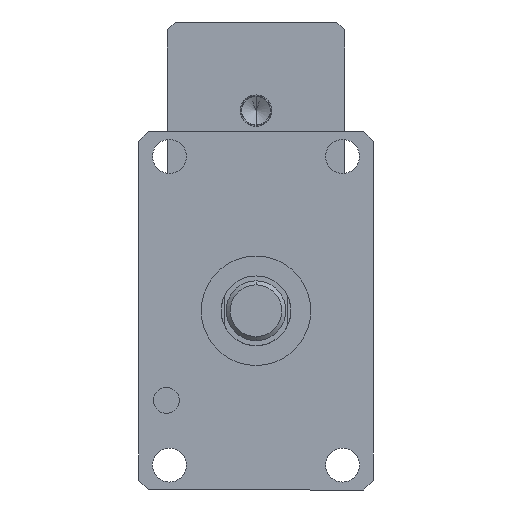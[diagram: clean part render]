
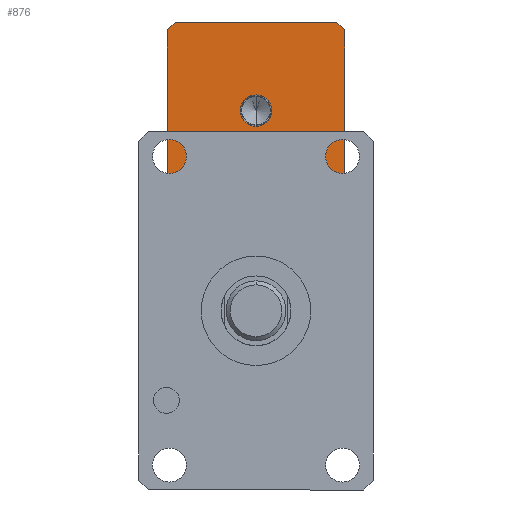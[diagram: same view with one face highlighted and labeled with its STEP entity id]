
A CAD part, front view. The second image highlights one B-rep face of the part: STEP entity #876.
In plain terms, the highlighted planar face has unit normal (0, -1, 0).
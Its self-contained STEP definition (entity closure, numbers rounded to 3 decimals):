
#598 = DIRECTION ( 'NONE',  ( 0., -1., 0. ) ) ;
#667 = VECTOR ( 'NONE', #12500, 1000. ) ;
#876 = ADVANCED_FACE ( 'NONE', ( #7718, #5119 ), #5338, .F. ) ;
#896 = ORIENTED_EDGE ( 'NONE', *, *, #4593, .T. ) ;
#938 = EDGE_CURVE ( 'NONE', #2421, #6954, #6801, .T. ) ;
#960 = AXIS2_PLACEMENT_3D ( 'NONE', #5809, #12560, #6776 ) ;
#979 = EDGE_CURVE ( 'NONE', #10774, #1044, #4198, .T. ) ;
#1044 = VERTEX_POINT ( 'NONE', #3375 ) ;
#1050 = ORIENTED_EDGE ( 'NONE', *, *, #10671, .T. ) ;
#1455 = CARTESIAN_POINT ( 'NONE',  ( 44.5, 110., 145. ) ) ;
#1544 = VERTEX_POINT ( 'NONE', #9676 ) ;
#1922 = LINE ( 'NONE', #10560, #2214 ) ;
#2160 = ORIENTED_EDGE ( 'NONE', *, *, #11901, .F. ) ;
#2189 = CARTESIAN_POINT ( 'NONE',  ( 40.5, 110., 145. ) ) ;
#2214 = VECTOR ( 'NONE', #4736, 1000. ) ;
#2228 = DIRECTION ( 'NONE',  ( -0.707, 0., 0.707 ) ) ;
#2236 = CIRCLE ( 'NONE', #2716, 7.903 ) ;
#2293 = EDGE_LOOP ( 'NONE', ( #3767, #2352, #1050, #5019, #5135, #6459, #9102, #896 ) ) ;
#2311 = DIRECTION ( 'NONE',  ( 0.707, 0., 0.707 ) ) ;
#2332 = LINE ( 'NONE', #9166, #12370 ) ;
#2352 = ORIENTED_EDGE ( 'NONE', *, *, #10734, .T. ) ;
#2421 = VERTEX_POINT ( 'NONE', #9122 ) ;
#2443 = DIRECTION ( 'NONE',  ( 0., 0., 1. ) ) ;
#2463 = CARTESIAN_POINT ( 'NONE',  ( -44.5, 110., 141. ) ) ;
#2468 = CARTESIAN_POINT ( 'NONE',  ( 44.5, 110., 145. ) ) ;
#2572 = EDGE_CURVE ( 'NONE', #2421, #1044, #1922, .T. ) ;
#2716 = AXIS2_PLACEMENT_3D ( 'NONE', #6441, #598, #7436 ) ;
#3024 = VERTEX_POINT ( 'NONE', #2463 ) ;
#3318 = DIRECTION ( 'NONE',  ( 0., 0., -1. ) ) ;
#3375 = CARTESIAN_POINT ( 'NONE',  ( 44.5, 110., 60. ) ) ;
#3386 = AXIS2_PLACEMENT_3D ( 'NONE', #1455, #8265, #2443 ) ;
#3435 = DIRECTION ( 'NONE',  ( -0.707, 0., -0.707 ) ) ;
#3546 = CARTESIAN_POINT ( 'NONE',  ( -44.5, 110., 60. ) ) ;
#3767 = ORIENTED_EDGE ( 'NONE', *, *, #11463, .T. ) ;
#3771 = CARTESIAN_POINT ( 'NONE',  ( 44.5, 110., 56. ) ) ;
#4106 = CARTESIAN_POINT ( 'NONE',  ( 40.5, 110., 56. ) ) ;
#4198 = LINE ( 'NONE', #8159, #8774 ) ;
#4252 = EDGE_CURVE ( 'NONE', #5139, #6954, #12366, .T. ) ;
#4593 = EDGE_CURVE ( 'NONE', #5139, #3024, #9348, .T. ) ;
#4736 = DIRECTION ( 'NONE',  ( 0., 0., -1. ) ) ;
#5019 = ORIENTED_EDGE ( 'NONE', *, *, #979, .T. ) ;
#5119 = FACE_OUTER_BOUND ( 'NONE', #2293, .T. ) ;
#5135 = ORIENTED_EDGE ( 'NONE', *, *, #2572, .F. ) ;
#5139 = VERTEX_POINT ( 'NONE', #6201 ) ;
#5254 = LINE ( 'NONE', #8840, #12383 ) ;
#5338 = PLANE ( 'NONE',  #3386 ) ;
#5809 = CARTESIAN_POINT ( 'NONE',  ( 0., 110., 100.5 ) ) ;
#5916 = EDGE_CURVE ( 'NONE', #1544, #9587, #2236, .T. ) ;
#6201 = CARTESIAN_POINT ( 'NONE',  ( -40.5, 110., 145. ) ) ;
#6441 = CARTESIAN_POINT ( 'NONE',  ( 0., 110., 100.5 ) ) ;
#6459 = ORIENTED_EDGE ( 'NONE', *, *, #938, .T. ) ;
#6776 = DIRECTION ( 'NONE',  ( 0., 0., -1. ) ) ;
#6801 = LINE ( 'NONE', #10030, #9074 ) ;
#6954 = VERTEX_POINT ( 'NONE', #2189 ) ;
#7436 = DIRECTION ( 'NONE',  ( 0., 0., -1. ) ) ;
#7456 = EDGE_LOOP ( 'NONE', ( #2160, #8543 ) ) ;
#7718 = FACE_BOUND ( 'NONE', #7456, .T. ) ;
#8159 = CARTESIAN_POINT ( 'NONE',  ( 44.5, 110., 60. ) ) ;
#8265 = DIRECTION ( 'NONE',  ( 0., 1., 0. ) ) ;
#8302 = DIRECTION ( 'NONE',  ( 1., 0., 0. ) ) ;
#8372 = VERTEX_POINT ( 'NONE', #3546 ) ;
#8543 = ORIENTED_EDGE ( 'NONE', *, *, #5916, .F. ) ;
#8559 = VERTEX_POINT ( 'NONE', #11735 ) ;
#8774 = VECTOR ( 'NONE', #2311, 1000. ) ;
#8840 = CARTESIAN_POINT ( 'NONE',  ( -44.5, 110., 60. ) ) ;
#9074 = VECTOR ( 'NONE', #2228, 1000. ) ;
#9102 = ORIENTED_EDGE ( 'NONE', *, *, #4252, .F. ) ;
#9122 = CARTESIAN_POINT ( 'NONE',  ( 44.5, 110., 141. ) ) ;
#9166 = CARTESIAN_POINT ( 'NONE',  ( -44.5, 110., 145. ) ) ;
#9284 = CARTESIAN_POINT ( 'NONE',  ( -40.5, 110., 145. ) ) ;
#9348 = LINE ( 'NONE', #9284, #11591 ) ;
#9353 = CIRCLE ( 'NONE', #960, 7.903 ) ;
#9587 = VERTEX_POINT ( 'NONE', #11279 ) ;
#9676 = CARTESIAN_POINT ( 'NONE',  ( 0., 110., 108.403 ) ) ;
#9811 = DIRECTION ( 'NONE',  ( 0.707, 0., -0.707 ) ) ;
#10030 = CARTESIAN_POINT ( 'NONE',  ( 40.5, 110., 145. ) ) ;
#10560 = CARTESIAN_POINT ( 'NONE',  ( 44.5, 110., 145. ) ) ;
#10671 = EDGE_CURVE ( 'NONE', #8559, #10774, #10725, .T. ) ;
#10725 = LINE ( 'NONE', #3771, #667 ) ;
#10734 = EDGE_CURVE ( 'NONE', #8372, #8559, #5254, .T. ) ;
#10774 = VERTEX_POINT ( 'NONE', #4106 ) ;
#11279 = CARTESIAN_POINT ( 'NONE',  ( 0., 110., 92.597 ) ) ;
#11463 = EDGE_CURVE ( 'NONE', #3024, #8372, #2332, .T. ) ;
#11591 = VECTOR ( 'NONE', #3435, 1000. ) ;
#11735 = CARTESIAN_POINT ( 'NONE',  ( -40.5, 110., 56. ) ) ;
#11901 = EDGE_CURVE ( 'NONE', #9587, #1544, #9353, .T. ) ;
#12059 = VECTOR ( 'NONE', #8302, 1000. ) ;
#12366 = LINE ( 'NONE', #2468, #12059 ) ;
#12370 = VECTOR ( 'NONE', #3318, 1000. ) ;
#12383 = VECTOR ( 'NONE', #9811, 1000. ) ;
#12500 = DIRECTION ( 'NONE',  ( 1., 0., 0. ) ) ;
#12560 = DIRECTION ( 'NONE',  ( 0., -1., 0. ) ) ;
